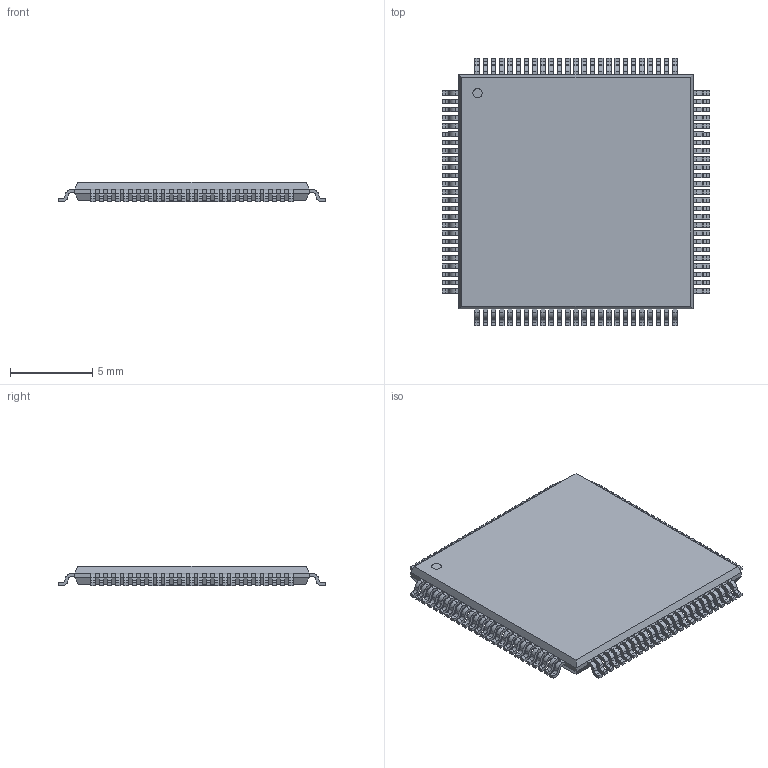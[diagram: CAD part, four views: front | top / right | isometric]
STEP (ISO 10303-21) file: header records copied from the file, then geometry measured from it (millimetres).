
FILE_DESCRIPTION(('STEP AP214'),'1');
FILE_NAME('PZP100_5P2X5P2','2025-04-30T07:37:02',(''),(''),'','','');
FILE_SCHEMA(('AUTOMOTIVE_DESIGN'));
Length unit declared in the file: millimetre
Products named in the file (1): product
Bounding box: 16.21 x 16.21 x 1.2 mm (x, y, z)
Volume: 229.2 mm3; surface area: 639.2 mm2
Topology: 103 solids, 103 shells, 1423 faces, 3643 edges, 2426 vertices
Faces by surface type: plane 1022, cylinder 401
Full cylindrical faces by diameter (mm): 0.568 x1
Entity records: 41101 total; most frequent: DIRECTION 7294, ORIENTED_EDGE 7284, CARTESIAN_POINT 4253, EDGE_CURVE 3642, LINE 2840, VECTOR 2840, VERTEX_POINT 2426, AXIS2_PLACEMENT_3D 2227
